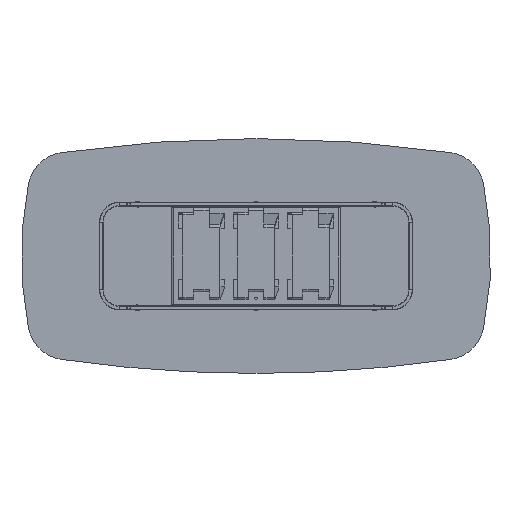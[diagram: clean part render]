
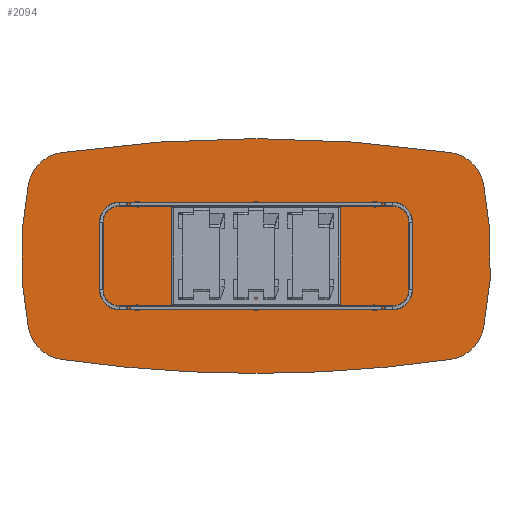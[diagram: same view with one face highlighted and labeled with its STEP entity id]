
A CAD part, front view. The second image highlights one B-rep face of the part: STEP entity #2094.
In plain terms, the highlighted planar face has unit normal (0, -1, 0).
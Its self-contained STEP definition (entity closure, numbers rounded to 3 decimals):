
#228 = EDGE_CURVE ( 'NONE', #13325, #2744, #5423, .T. ) ;
#232 = DIRECTION ( 'NONE',  ( 0., -1., 0. ) ) ;
#290 = CARTESIAN_POINT ( 'NONE',  ( -995.103, 0., -528.391 ) ) ;
#336 = ORIENTED_EDGE ( 'NONE', *, *, #3700, .F. ) ;
#855 = VERTEX_POINT ( 'NONE', #10002 ) ;
#866 = VERTEX_POINT ( 'NONE', #11164 ) ;
#884 = AXIS2_PLACEMENT_3D ( 'NONE', #12440, #15286, #4376 ) ;
#1182 = AXIS2_PLACEMENT_3D ( 'NONE', #15975, #10574, #14570 ) ;
#1440 = ORIENTED_EDGE ( 'NONE', *, *, #12504, .T. ) ;
#1477 = VERTEX_POINT ( 'NONE', #290 ) ;
#1786 = DIRECTION ( 'NONE',  ( 0., 0., 1. ) ) ;
#1862 = EDGE_LOOP ( 'NONE', ( #3862, #1440, #8755, #16102, #11287, #336, #15514, #6742, #14729 ) ) ;
#2094 = ADVANCED_FACE ( 'NONE', ( #3581 ), #10229, .F. ) ;
#2330 = DIRECTION ( 'NONE',  ( 0., 0., 1. ) ) ;
#2397 = CARTESIAN_POINT ( 'NONE',  ( 995.103, 0., 528.391 ) ) ;
#2445 = AXIS2_PLACEMENT_3D ( 'NONE', #14632, #6368, #12053 ) ;
#2744 = VERTEX_POINT ( 'NONE', #2397 ) ;
#3285 = CIRCLE ( 'NONE', #5560, 200. ) ;
#3302 = CIRCLE ( 'NONE', #15484, 6950. ) ;
#3527 = DIRECTION ( 'NONE',  ( 0., 0., 1. ) ) ;
#3581 = FACE_OUTER_BOUND ( 'NONE', #1862, .T. ) ;
#3700 = EDGE_CURVE ( 'NONE', #8529, #4342, #11298, .T. ) ;
#3862 = ORIENTED_EDGE ( 'NONE', *, *, #14194, .F. ) ;
#4015 = CARTESIAN_POINT ( 'NONE',  ( 1162.39, 0., -370.629 ) ) ;
#4261 = CARTESIAN_POINT ( 'NONE',  ( 995.103, 0., -528.391 ) ) ;
#4342 = VERTEX_POINT ( 'NONE', #7788 ) ;
#4376 = DIRECTION ( 'NONE',  ( 0., 0., 1. ) ) ;
#4626 = DIRECTION ( 'NONE',  ( 0., 1., 0. ) ) ;
#4812 = CARTESIAN_POINT ( 'NONE',  ( -322.5, 0., 3175. ) ) ;
#5027 = AXIS2_PLACEMENT_3D ( 'NONE', #15418, #12579, #3527 ) ;
#5049 = CARTESIAN_POINT ( 'NONE',  ( 0., 0., 6350. ) ) ;
#5423 = CIRCLE ( 'NONE', #7962, 200. ) ;
#5513 = DIRECTION ( 'NONE',  ( 0., 0., 1. ) ) ;
#5560 = AXIS2_PLACEMENT_3D ( 'NONE', #11090, #232, #13930 ) ;
#5598 = CIRCLE ( 'NONE', #5027, 200. ) ;
#6197 = AXIS2_PLACEMENT_3D ( 'NONE', #9693, #4626, #1786 ) ;
#6216 = CARTESIAN_POINT ( 'NONE',  ( 1162.39, 0., 370.629 ) ) ;
#6368 = DIRECTION ( 'NONE',  ( 0., -1., 0. ) ) ;
#6742 = ORIENTED_EDGE ( 'NONE', *, *, #7002, .F. ) ;
#7002 = EDGE_CURVE ( 'NONE', #13325, #10550, #17339, .T. ) ;
#7063 = VERTEX_POINT ( 'NONE', #7815 ) ;
#7788 = CARTESIAN_POINT ( 'NONE',  ( 0., 0., -600. ) ) ;
#7815 = CARTESIAN_POINT ( 'NONE',  ( -995.103, 0., 528.391 ) ) ;
#7962 = AXIS2_PLACEMENT_3D ( 'NONE', #17063, #14236, #8914 ) ;
#8148 = CIRCLE ( 'NONE', #10709, 6950. ) ;
#8149 = EDGE_CURVE ( 'NONE', #866, #855, #9690, .T. ) ;
#8529 = VERTEX_POINT ( 'NONE', #4261 ) ;
#8755 = ORIENTED_EDGE ( 'NONE', *, *, #8149, .F. ) ;
#8871 = AXIS2_PLACEMENT_3D ( 'NONE', #4812, #8907, #2330 ) ;
#8907 = DIRECTION ( 'NONE',  ( 0., 1., 0. ) ) ;
#8914 = DIRECTION ( 'NONE',  ( 0., 0., 1. ) ) ;
#9690 = CIRCLE ( 'NONE', #884, 1845. ) ;
#9693 = CARTESIAN_POINT ( 'NONE',  ( 0., 0., 6350. ) ) ;
#10002 = CARTESIAN_POINT ( 'NONE',  ( -1162.39, 0., 370.629 ) ) ;
#10229 = PLANE ( 'NONE',  #8871 ) ;
#10550 = VERTEX_POINT ( 'NONE', #4015 ) ;
#10574 = DIRECTION ( 'NONE',  ( 0., 1., 0. ) ) ;
#10709 = AXIS2_PLACEMENT_3D ( 'NONE', #5049, #15866, #14727 ) ;
#11090 = CARTESIAN_POINT ( 'NONE',  ( -966.467, 0., 330.452 ) ) ;
#11164 = CARTESIAN_POINT ( 'NONE',  ( -1162.39, 0., -370.629 ) ) ;
#11287 = ORIENTED_EDGE ( 'NONE', *, *, #15679, .F. ) ;
#11298 = CIRCLE ( 'NONE', #6197, 6950. ) ;
#12053 = DIRECTION ( 'NONE',  ( 0., 0., 1. ) ) ;
#12253 = CARTESIAN_POINT ( 'NONE',  ( 0., 0., -6350. ) ) ;
#12440 = CARTESIAN_POINT ( 'NONE',  ( 645., 0., 0. ) ) ;
#12504 = EDGE_CURVE ( 'NONE', #7063, #855, #3285, .T. ) ;
#12579 = DIRECTION ( 'NONE',  ( 0., -1., 0. ) ) ;
#12732 = EDGE_CURVE ( 'NONE', #866, #1477, #13749, .T. ) ;
#13325 = VERTEX_POINT ( 'NONE', #6216 ) ;
#13749 = CIRCLE ( 'NONE', #2445, 200. ) ;
#13930 = DIRECTION ( 'NONE',  ( 0., 0., 1. ) ) ;
#14194 = EDGE_CURVE ( 'NONE', #7063, #2744, #3302, .T. ) ;
#14236 = DIRECTION ( 'NONE',  ( 0., -1., 0. ) ) ;
#14570 = DIRECTION ( 'NONE',  ( 0., 0., 1. ) ) ;
#14632 = CARTESIAN_POINT ( 'NONE',  ( -966.467, 0., -330.452 ) ) ;
#14727 = DIRECTION ( 'NONE',  ( 0., 0., 1. ) ) ;
#14729 = ORIENTED_EDGE ( 'NONE', *, *, #228, .T. ) ;
#15084 = DIRECTION ( 'NONE',  ( 0., 1., 0. ) ) ;
#15286 = DIRECTION ( 'NONE',  ( 0., 1., 0. ) ) ;
#15418 = CARTESIAN_POINT ( 'NONE',  ( 966.467, 0., -330.452 ) ) ;
#15484 = AXIS2_PLACEMENT_3D ( 'NONE', #12253, #15084, #5513 ) ;
#15514 = ORIENTED_EDGE ( 'NONE', *, *, #15955, .T. ) ;
#15679 = EDGE_CURVE ( 'NONE', #4342, #1477, #8148, .T. ) ;
#15866 = DIRECTION ( 'NONE',  ( 0., 1., 0. ) ) ;
#15955 = EDGE_CURVE ( 'NONE', #8529, #10550, #5598, .T. ) ;
#15975 = CARTESIAN_POINT ( 'NONE',  ( -645., 0., 0. ) ) ;
#16102 = ORIENTED_EDGE ( 'NONE', *, *, #12732, .T. ) ;
#17063 = CARTESIAN_POINT ( 'NONE',  ( 966.467, 0., 330.452 ) ) ;
#17339 = CIRCLE ( 'NONE', #1182, 1845. ) ;
